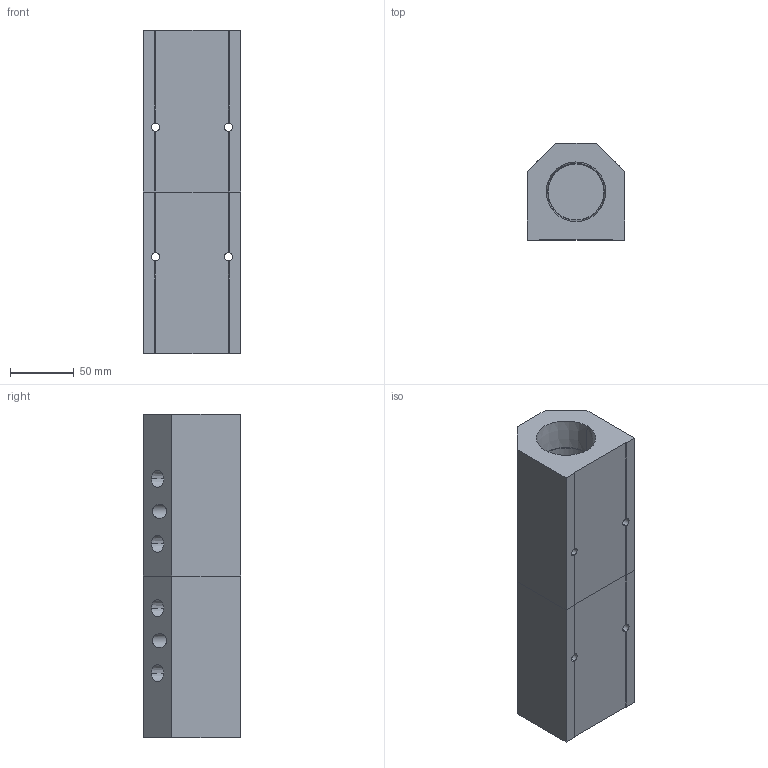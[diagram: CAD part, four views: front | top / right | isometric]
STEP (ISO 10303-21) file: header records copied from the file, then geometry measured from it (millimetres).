
FILE_DESCRIPTION (( 'STEP AP214' ), '1' );
FILE_NAME ('ALM4BCD-N4N24-254RB.step', '2022-02-07T07:52:05', ( '' ), ( '' ), 'SwSTEP 2.0', 'SolidWorks 2020', '' );
FILE_SCHEMA (( 'AUTOMOTIVE_DESIGN' ));
Length unit declared in the file: millimetre
Products named in the file (1): ALM4BCD-N4N24-254RB
Bounding box: 76.2 x 76.2 x 254 mm (x, y, z)
Volume: 916596.4 mm3; surface area: 137300.1 mm2
Topology: 2 solids, 2 shells, 380 faces, 1000 edges, 664 vertices
Faces by surface type: plane 270, bspline 62, cone 28, cylinder 20
Entity records: 20356 total; most frequent: CARTESIAN_POINT 7747, ORIENTED_EDGE 2000, DIRECTION 1538, EDGE_CURVE 1000, LINE 772, VECTOR 772, VERTEX_POINT 664, EDGE_LOOP 452
